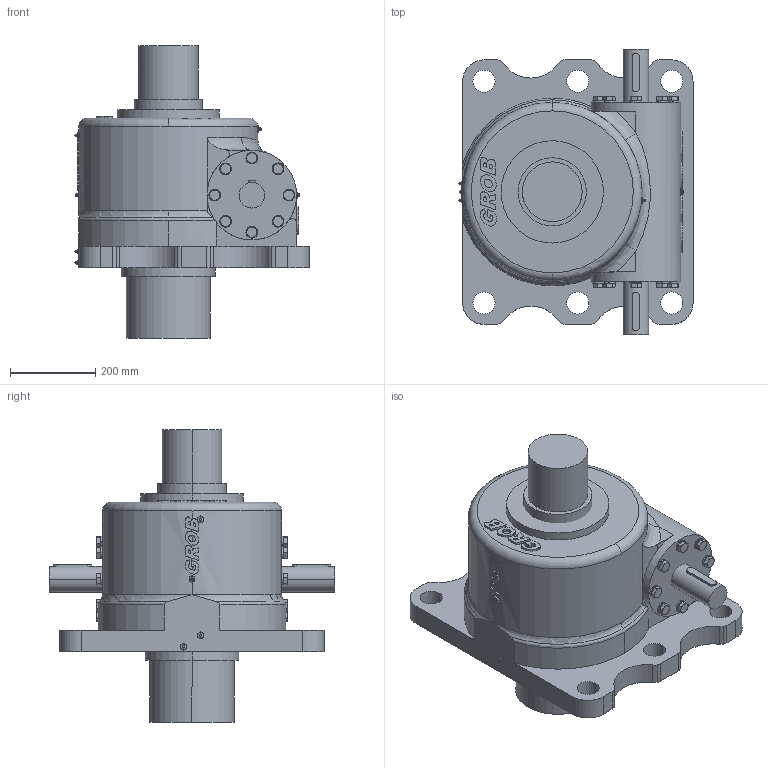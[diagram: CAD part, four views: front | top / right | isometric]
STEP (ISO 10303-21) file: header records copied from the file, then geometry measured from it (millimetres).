
FILE_DESCRIPTION(('STEP AP203'),'1');
FILE_NAME('mc100-gn-f-1f-ge-0100-0000-tr160x20-ab-o_0.stp','2023-12-18T13:33:49',('TraceParts'),('TraceParts S.A.'),'Spatial InterOp 3D',' ',' ');
FILE_SCHEMA(('CONFIG_CONTROL_DESIGN'));
Length unit declared in the file: millimetre
Products named in the file (1): 1
Bounding box: 548.68 x 670 x 685.3 mm (x, y, z)
Volume: 88514170.4 mm3; surface area: 1871709.5 mm2
Topology: 3 solids, 3 shells, 1065 faces, 2774 edges, 1754 vertices
Faces by surface type: cylinder 425, plane 368, cone 206, bspline 36, torus 18, sphere 12
Entity records: 34156 total; most frequent: CARTESIAN_POINT 8268, DIRECTION 5599, ORIENTED_EDGE 5500, EDGE_CURVE 2750, AXIS2_PLACEMENT_3D 2268, VERTEX_POINT 1754, EDGE_LOOP 1172, CIRCLE 1147
